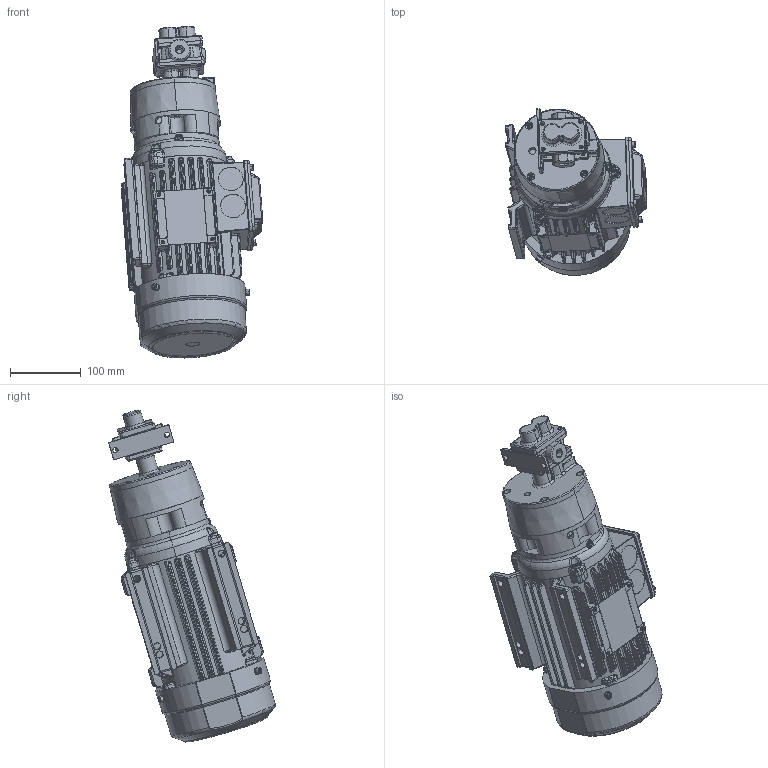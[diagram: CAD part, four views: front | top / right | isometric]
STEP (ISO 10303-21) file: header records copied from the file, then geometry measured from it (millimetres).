
FILE_DESCRIPTION (( 'STEP AP214' ), '1' );
FILE_NAME ('GMC2 FNPT IEC80 MOTOR.STEP', '2025-08-28T14:47:24', ( '' ), ( '' ), 'SwSTEP 2.0', 'SolidWorks 2024', '' );
FILE_SCHEMA (( 'AUTOMOTIVE_DESIGN' ));
Length unit declared in the file: inch
Products named in the file (1): GMC2 FNPT IEC80 MOTOR
Bounding box: 200.45 x 235.78 x 470.11 mm (x, y, z)
Volume: 5800476.8 mm3; surface area: 474838.9 mm2
Topology: 6 solids, 26 shells, 2867 faces, 6905 edges, 4011 vertices
Faces by surface type: cylinder 1129, plane 694, bspline 518, torus 238, cone 191, sphere 97
Entity records: 97155 total; most frequent: CARTESIAN_POINT 34122, ORIENTED_EDGE 13504, DIRECTION 12994, EDGE_CURVE 6752, AXIS2_PLACEMENT_3D 5201, VERTEX_POINT 4011, EDGE_LOOP 3079, ADVANCED_FACE 2867
